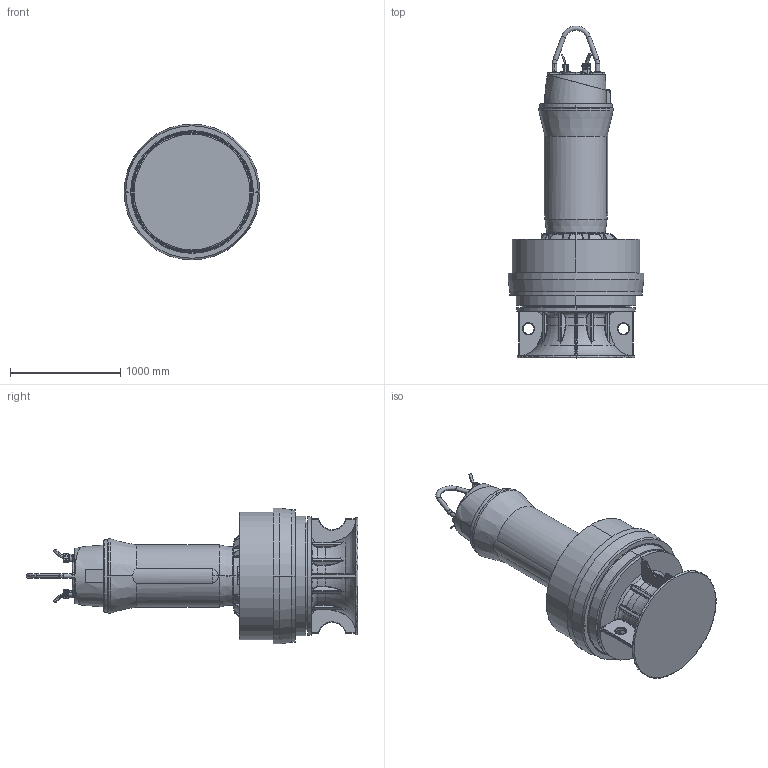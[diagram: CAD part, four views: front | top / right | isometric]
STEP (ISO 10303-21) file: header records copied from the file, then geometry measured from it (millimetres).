
FILE_DESCRIPTION (( 'STEP AP214' ), '1' );
FILE_NAME ('PE7_AFLX1207_STD_A.STEP', '2017-05-12T05:15:51', ( '' ), ( '' ), 'SwSTEP 2.0', 'SolidWorks 2017', '' );
FILE_SCHEMA (( 'AUTOMOTIVE_DESIGN' ));
Length unit declared in the file: millimetre
Products named in the file (1): PE7_AFLX1207_STD_A
Bounding box: 1230 x 3008.1 x 1230 mm (x, y, z)
Volume: 1213543134.3 mm3; surface area: 12533956.8 mm2
Topology: 3 solids, 22 shells, 3010 faces, 7284 edges, 4155 vertices
Faces by surface type: bspline 945, plane 681, cylinder 608, torus 359, cone 290, sphere 127
Entity records: 700802 total; most frequent: CARTESIAN_POINT 605665, ORIENTED_EDGE 14096, DIRECTION 11456, EDGE_CURVE 7048, AXIS2_PLACEMENT_3D 4723, VERTEX_POINT 4154, EDGE_LOOP 3144, UNCERTAINTY_MEASURE_WITH_UNIT 3015
